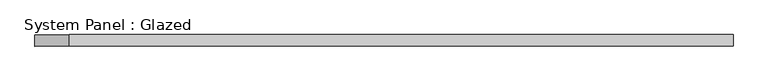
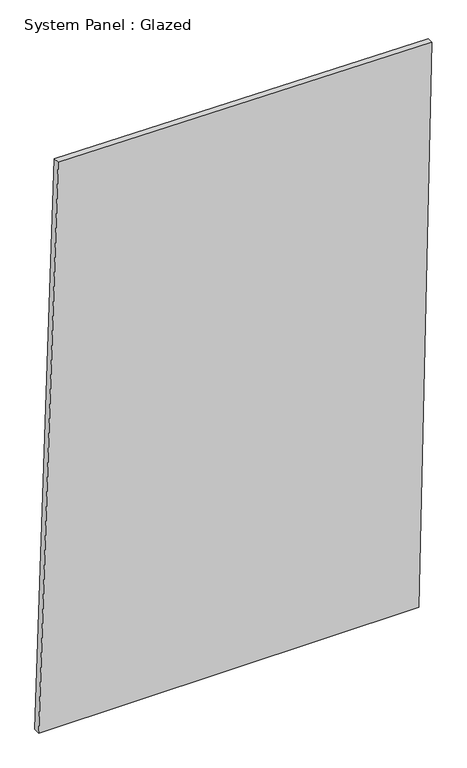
"""IFC4 building model written with IfcOpenShell, lengths in millimetres: plate geometry, System Panel : Glazed."""

from ifc_helpers import new_model, si_unit, frame, origin, place, context, project, spatial, polyline, outline, extrude, source, transform, mapped, element, save


def system_panel_glazed_7b28161b(model_context):
    return source(origin(), model_context, "Body", "SweptSolid", [
        extrude(outline(polyline([(0.0, -764.651049), (0.0, 712.5668788), (2304.3226892, 764.651049), (2319.5407331, -688.9454781), (0.0, -764.651049)])), frame((0.0, -49.5, 0.0), z_axis=(0.0, 1.0, 0.0), x_axis=(0.0, 0.0, 1.0)), (0.0, 0.0, 1.0), 25.0),
    ])


if __name__ == "__main__":
    model = new_model("IFC4")
    model_context = context("Model", 3, world=origin())
    ifc_project = project(units=[si_unit("LENGTHUNIT", "METRE", prefix="MILLI")], contexts=[model_context])
    site = spatial("IfcSite", under=ifc_project)
    building = spatial("IfcBuilding", under=site)
    placement = place(None, origin())
    system_panel_glazed_shape = system_panel_glazed_7b28161b(model_context)
    element("IfcPlate", 1, ObjectType="System Panel : Glazed", at=placement, inside=building, context=model_context, shape_type="MappedRepresentation", body=[
        mapped(system_panel_glazed_shape, transform((0.0, 0.0, 0.0), x_axis=(1.0, 0.0, 0.0), y_axis=(0.0, 1.0, 0.0), z_axis=(0.0, 0.0, 1.0))),
    ])
    save(model, "model.ifc")
